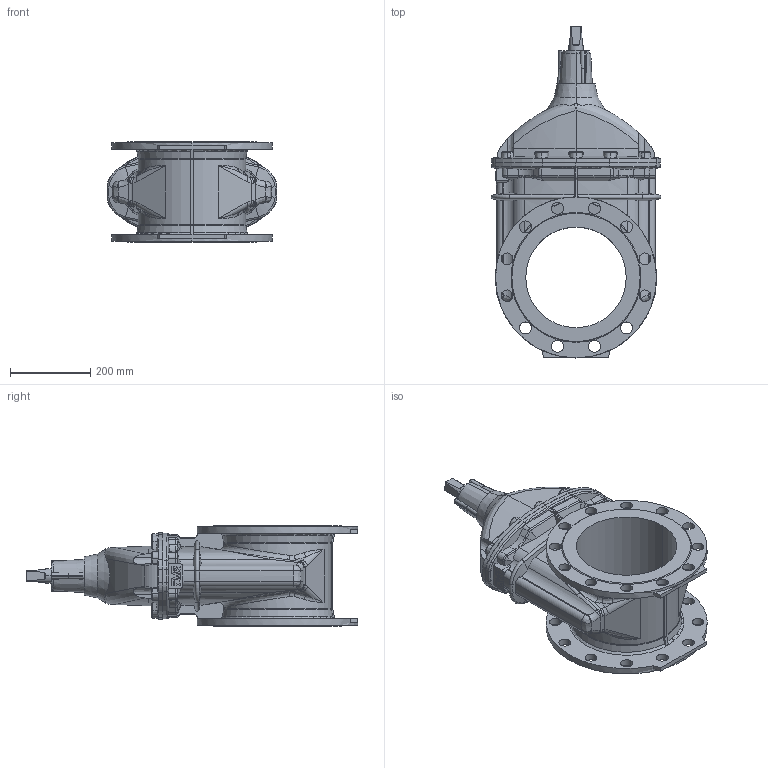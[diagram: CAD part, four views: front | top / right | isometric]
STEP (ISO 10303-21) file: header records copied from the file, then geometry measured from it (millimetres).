
FILE_DESCRIPTION (( 'STEP AP203' ), '1' );
FILE_NAME ('O_06_30_DN250_XXXXXXX99_PN16_REV02.step', '2021-02-17T07:39:53', ( '' ), ( '' ), 'SwSTEP 2.0', 'SolidWorks 2019', '' );
FILE_SCHEMA (( 'CONFIG_CONTROL_DESIGN' ));
Length unit declared in the file: millimetre
Products named in the file (1): O_06_30_DN250_XXXXXXX99_PN16_REV02
Bounding box: 421.93 x 825.1 x 250 mm (x, y, z)
Volume: 21529993.2 mm3; surface area: 1155754.8 mm2
Topology: 1 solids, 1 shells, 698 faces, 1836 edges, 1124 vertices
Faces by surface type: plane 203, cylinder 171, cone 166, bspline 86, torus 70, sphere 2
Entity records: 26669 total; most frequent: CARTESIAN_POINT 10697, ORIENTED_EDGE 3624, DIRECTION 3002, EDGE_CURVE 1812, AXIS2_PLACEMENT_3D 1161, VERTEX_POINT 1124, EDGE_LOOP 756, ADVANCED_FACE 698
